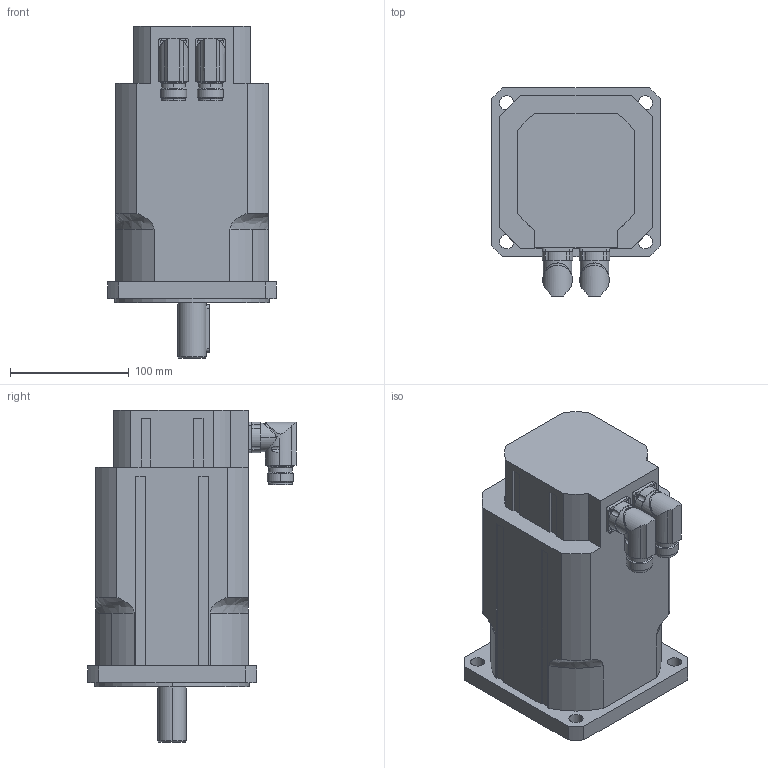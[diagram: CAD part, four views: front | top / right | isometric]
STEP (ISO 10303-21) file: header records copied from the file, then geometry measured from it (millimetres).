
FILE_DESCRIPTION(('STEP AP203'),'2;1');
FILE_NAME('MT5-1050_X.stp','2006-08-28T20:48:33',(''),(''),'2005.2.102','THINKDESIGN','');
FILE_SCHEMA(('CONFIG_CONTROL_DESIGN'));
Length unit declared in the file: millimetre
Bounding box: 142 x 175.5 x 279 mm (x, y, z)
Volume: 3425581.5 mm3; surface area: 175432.7 mm2
Topology: 3 solids, 3 shells, 255 faces, 679 edges, 439 vertices
Faces by surface type: cylinder 110, plane 107, bspline 38
Full cylindrical faces by diameter (mm): 20 x2
Entity records: 9316 total; most frequent: CARTESIAN_POINT 2863, ORIENTED_EDGE 1354, DIRECTION 1327, EDGE_CURVE 677, AXIS2_PLACEMENT_3D 493, VERTEX_POINT 439, VECTOR 341, LINE 341
